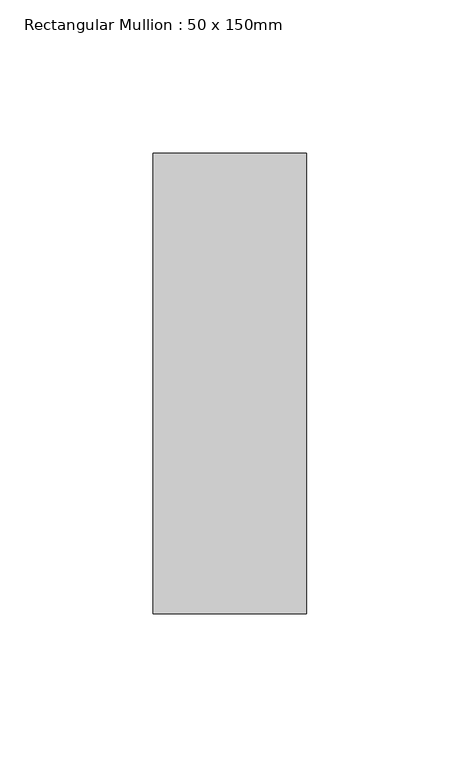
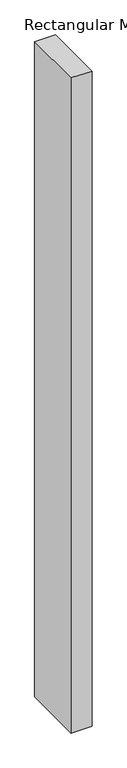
"""IFC4 building model written with IfcOpenShell, lengths in millimetres: member geometry, Rectangular Mullion : 50 x 150mm."""

from ifc_helpers import new_model, si_unit, frame, origin, place, context, project, spatial, polyline, outline, extrude, source, transform, mapped, element, save


def rectangular_mullion_50_x_150mm_7893aaae(model_context):
    return source(origin(), model_context, "Body", "SweptSolid", [
        extrude(outline(polyline([(25.0, 75.0), (25.0, -75.0), (-25.0, -75.0), (-25.0, 75.0), (25.0, 75.0)])), frame((0.0, 0.0, -1650.0), z_axis=(0.0, 0.0, 1.0), x_axis=(1.0, 0.0, 0.0)), (0.0, 0.0, 1.0), 1650.0),
    ])


if __name__ == "__main__":
    model = new_model("IFC4")
    model_context = context("Model", 3, world=origin())
    ifc_project = project(units=[si_unit("LENGTHUNIT", "METRE", prefix="MILLI")], contexts=[model_context])
    site = spatial("IfcSite", under=ifc_project)
    building = spatial("IfcBuilding", under=site)
    placement = place(None, origin())
    rectangular_mullion_50_x_150mm_shape = rectangular_mullion_50_x_150mm_7893aaae(model_context)
    element("IfcMember", 1, ObjectType="Rectangular Mullion : 50 x 150mm", at=placement, inside=building, context=model_context, shape_type="MappedRepresentation", body=[
        mapped(rectangular_mullion_50_x_150mm_shape, transform((0.0, 0.0, 0.0), x_axis=(1.0, 0.0, 0.0), y_axis=(0.0, 1.0, 0.0), z_axis=(0.0, 0.0, 1.0))),
    ])
    save(model, "model.ifc")
